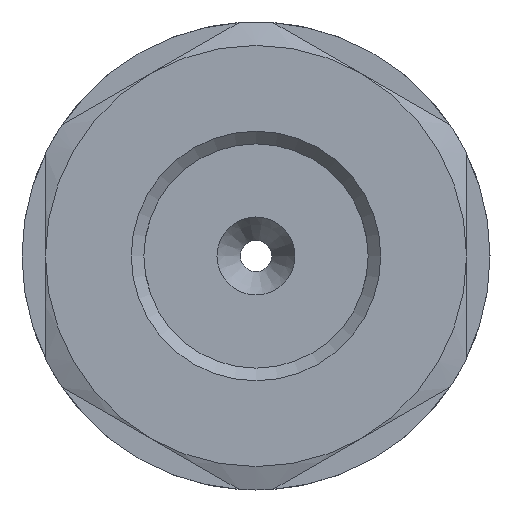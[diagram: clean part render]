
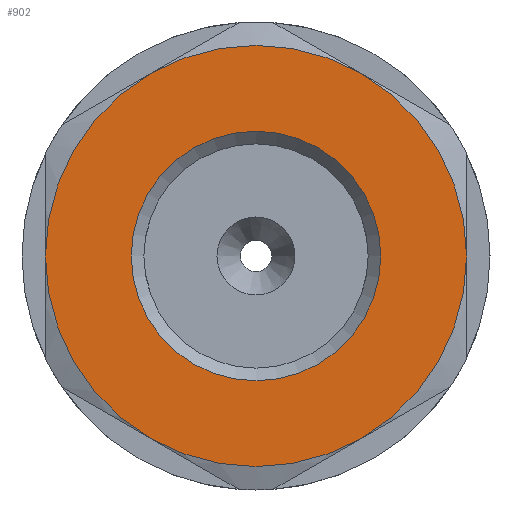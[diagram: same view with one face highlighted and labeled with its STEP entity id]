
A CAD part, left-side view. The second image highlights one B-rep face of the part: STEP entity #902.
In plain terms, the highlighted planar face has unit normal (-1, 0, 0).
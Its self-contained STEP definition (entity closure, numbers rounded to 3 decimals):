
#153=FACE_BOUND('',#225,.T.);
#169=FACE_OUTER_BOUND('',#224,.T.);
#224=EDGE_LOOP('',(#568,#569,#570,#571,#572,#573));
#225=EDGE_LOOP('',(#574));
#294=CIRCLE('',#982,13.5);
#295=CIRCLE('',#983,13.5);
#296=CIRCLE('',#984,13.5);
#297=CIRCLE('',#985,13.5);
#298=CIRCLE('',#986,13.5);
#299=CIRCLE('',#987,13.5);
#300=CIRCLE('',#988,8.);
#356=VERTEX_POINT('',#1374);
#357=VERTEX_POINT('',#1375);
#358=VERTEX_POINT('',#1377);
#359=VERTEX_POINT('',#1379);
#360=VERTEX_POINT('',#1381);
#361=VERTEX_POINT('',#1383);
#362=VERTEX_POINT('',#1386);
#439=EDGE_CURVE('',#356,#357,#294,.T.);
#440=EDGE_CURVE('',#358,#356,#295,.T.);
#441=EDGE_CURVE('',#359,#358,#296,.T.);
#442=EDGE_CURVE('',#360,#359,#297,.T.);
#443=EDGE_CURVE('',#361,#360,#298,.T.);
#444=EDGE_CURVE('',#357,#361,#299,.T.);
#445=EDGE_CURVE('',#362,#362,#300,.T.);
#568=ORIENTED_EDGE('',*,*,#439,.F.);
#569=ORIENTED_EDGE('',*,*,#440,.F.);
#570=ORIENTED_EDGE('',*,*,#441,.F.);
#571=ORIENTED_EDGE('',*,*,#442,.F.);
#572=ORIENTED_EDGE('',*,*,#443,.F.);
#573=ORIENTED_EDGE('',*,*,#444,.F.);
#574=ORIENTED_EDGE('',*,*,#445,.T.);
#825=PLANE('',#981);
#902=ADVANCED_FACE('',(#169,#153),#825,.T.);
#981=AXIS2_PLACEMENT_3D('',#1373,#1102,#1103);
#982=AXIS2_PLACEMENT_3D('',#1376,#1104,#1105);
#983=AXIS2_PLACEMENT_3D('',#1378,#1106,#1107);
#984=AXIS2_PLACEMENT_3D('',#1380,#1108,#1109);
#985=AXIS2_PLACEMENT_3D('',#1382,#1110,#1111);
#986=AXIS2_PLACEMENT_3D('',#1384,#1112,#1113);
#987=AXIS2_PLACEMENT_3D('',#1385,#1114,#1115);
#988=AXIS2_PLACEMENT_3D('',#1387,#1116,#1117);
#1102=DIRECTION('center_axis',(-1.,0.,0.));
#1103=DIRECTION('ref_axis',(0.,0.,
1.));
#1104=DIRECTION('center_axis',(1.,0.,0.));
#1105=DIRECTION('ref_axis',(0.,0.,
-1.));
#1106=DIRECTION('center_axis',(1.,0.,0.));
#1107=DIRECTION('ref_axis',(0.,0.,
-1.));
#1108=DIRECTION('center_axis',(1.,0.,0.));
#1109=DIRECTION('ref_axis',(0.,0.,
-1.));
#1110=DIRECTION('center_axis',(1.,0.,0.));
#1111=DIRECTION('ref_axis',(0.,0.,
-1.));
#1112=DIRECTION('center_axis',(1.,0.,0.));
#1113=DIRECTION('ref_axis',(0.,0.,
-1.));
#1114=DIRECTION('center_axis',(1.,0.,0.));
#1115=DIRECTION('ref_axis',(0.,0.,
-1.));
#1116=DIRECTION('center_axis',(1.,0.,0.));
#1117=DIRECTION('ref_axis',(0.,0.,
1.));
#1373=CARTESIAN_POINT('Origin',(-35.706,12.68,0.));
#1374=CARTESIAN_POINT('',(-35.706,12.68,0.));
#1375=CARTESIAN_POINT('',(-35.706,5.93,11.691));
#1376=CARTESIAN_POINT('Origin',(-35.706,-0.82,0.));
#1377=CARTESIAN_POINT('',(-35.706,5.93,-11.691));
#1378=CARTESIAN_POINT('Origin',(-35.706,-0.82,0.));
#1379=CARTESIAN_POINT('',(-35.706,-7.57,-11.691));
#1380=CARTESIAN_POINT('Origin',(-35.706,-0.82,0.));
#1381=CARTESIAN_POINT('',(-35.706,-14.32,0.));
#1382=CARTESIAN_POINT('Origin',(-35.706,-0.82,0.));
#1383=CARTESIAN_POINT('',(-35.706,-7.57,11.691));
#1384=CARTESIAN_POINT('Origin',(-35.706,-0.82,0.));
#1385=CARTESIAN_POINT('Origin',(-35.706,-0.82,0.));
#1386=CARTESIAN_POINT('',(-35.706,-0.82,-8.));
#1387=CARTESIAN_POINT('Origin',(-35.706,-0.82,0.));
